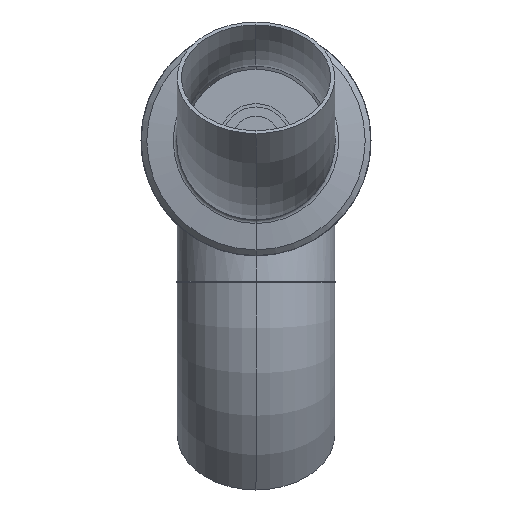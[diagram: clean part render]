
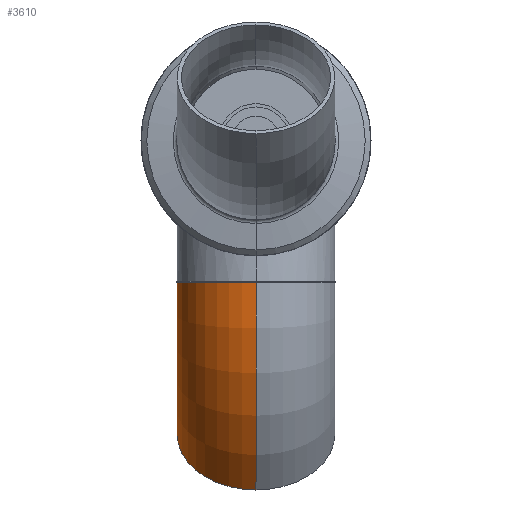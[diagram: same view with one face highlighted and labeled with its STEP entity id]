
A CAD part, front view. The second image highlights one B-rep face of the part: STEP entity #3610.
In plain terms, the highlighted toroidal (fillet/blend) face has major radius 229 mm and minor radius 84.15 mm.
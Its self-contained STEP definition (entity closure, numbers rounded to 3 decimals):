
#212 = CARTESIAN_POINT ( 'NONE',  ( 0., -84.15, 0. ) ) ;
#1463 = CARTESIAN_POINT ( 'NONE',  ( 102.424, -126.576, 0. ) ) ;
#1707 = CARTESIAN_POINT ( 'NONE',  ( 221.43, -7.57, 0. ) ) ;
#1799 = CIRCLE ( 'NONE', #1800, 84.15 ) ;
#1800 = AXIS2_PLACEMENT_3D ( 'NONE', #1803, #1804, #1805 ) ;
#1803 = CARTESIAN_POINT ( 'NONE',  ( 161.927, -67.073, 0. ) ) ;
#1804 = DIRECTION ( 'NONE',  ( 0.707, -0.707, 0. ) ) ;
#1805 = DIRECTION ( 'NONE',  ( 0., 0., -1. ) ) ;
#2539 = FACE_OUTER_BOUND ( 'NONE', #3596, .T. ) ;
#2540 = TOROIDAL_SURFACE ( 'NONE', #2541, 229., 84.15 ) ;
#2541 = AXIS2_PLACEMENT_3D ( 'NONE', #2545, #2546, #2547 ) ;
#2545 = CARTESIAN_POINT ( 'NONE',  ( 0., -229., 0. ) ) ;
#2546 = DIRECTION ( 'NONE',  ( 0., 0., 1. ) ) ;
#2547 = DIRECTION ( 'NONE',  ( 1., 0., 0. ) ) ;
#3223 = EDGE_CURVE ( 'NONE', #5539, #7832, #7363, .T. ) ;
#3546 = ORIENTED_EDGE ( 'NONE', *, *, #5759, .F. ) ;
#3596 = EDGE_LOOP ( 'NONE', ( #3546, #3743, #3819, #3744 ) ) ;
#3610 = ADVANCED_FACE ( 'NONE', ( #2539 ), #2540, .T. ) ;
#3743 = ORIENTED_EDGE ( 'NONE', *, *, #3223, .T. ) ;
#3744 = ORIENTED_EDGE ( 'NONE', *, *, #4066, .F. ) ;
#3819 = ORIENTED_EDGE ( 'NONE', *, *, #4031, .T. ) ;
#4031 = EDGE_CURVE ( 'NONE', #7832, #8691, #5530, .T. ) ;
#4066 = EDGE_CURVE ( 'NONE', #5323, #8691, #5985, .T. ) ;
#5323 = VERTEX_POINT ( 'NONE', #1463 ) ;
#5530 = CIRCLE ( 'NONE', #5531, 84.15 ) ;
#5531 = AXIS2_PLACEMENT_3D ( 'NONE', #5532, #5533, #5534 ) ;
#5532 = CARTESIAN_POINT ( 'NONE',  ( 0., 0., 0. ) ) ;
#5533 = DIRECTION ( 'NONE',  ( 1., 0., 0. ) ) ;
#5534 = DIRECTION ( 'NONE',  ( 0., 0., -1. ) ) ;
#5539 = VERTEX_POINT ( 'NONE', #1707 ) ;
#5759 = EDGE_CURVE ( 'NONE', #5539, #5323, #1799, .T. ) ;
#5985 = CIRCLE ( 'NONE', #5986, 144.85 ) ;
#5986 = AXIS2_PLACEMENT_3D ( 'NONE', #5987, #5988, #5989 ) ;
#5987 = CARTESIAN_POINT ( 'NONE',  ( 0., -229., 0. ) ) ;
#5988 = DIRECTION ( 'NONE',  ( 0., 0., 1. ) ) ;
#5989 = DIRECTION ( 'NONE',  ( 1., 0., 0. ) ) ;
#7363 = CIRCLE ( 'NONE', #7364, 313.15 ) ;
#7364 = AXIS2_PLACEMENT_3D ( 'NONE', #7365, #7366, #7367 ) ;
#7365 = CARTESIAN_POINT ( 'NONE',  ( 0., -229., 0. ) ) ;
#7366 = DIRECTION ( 'NONE',  ( 0., 0., 1. ) ) ;
#7367 = DIRECTION ( 'NONE',  ( 1., 0., 0. ) ) ;
#7667 = CARTESIAN_POINT ( 'NONE',  ( 0., 84.15, 0. ) ) ;
#7832 = VERTEX_POINT ( 'NONE', #7667 ) ;
#8691 = VERTEX_POINT ( 'NONE', #212 ) ;
